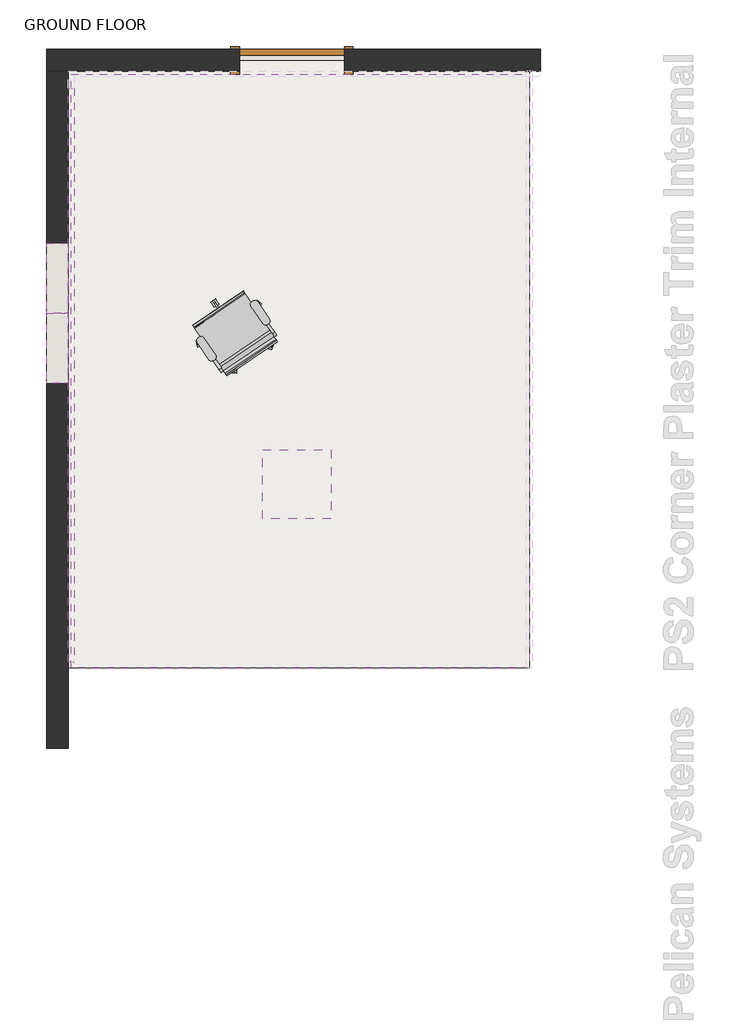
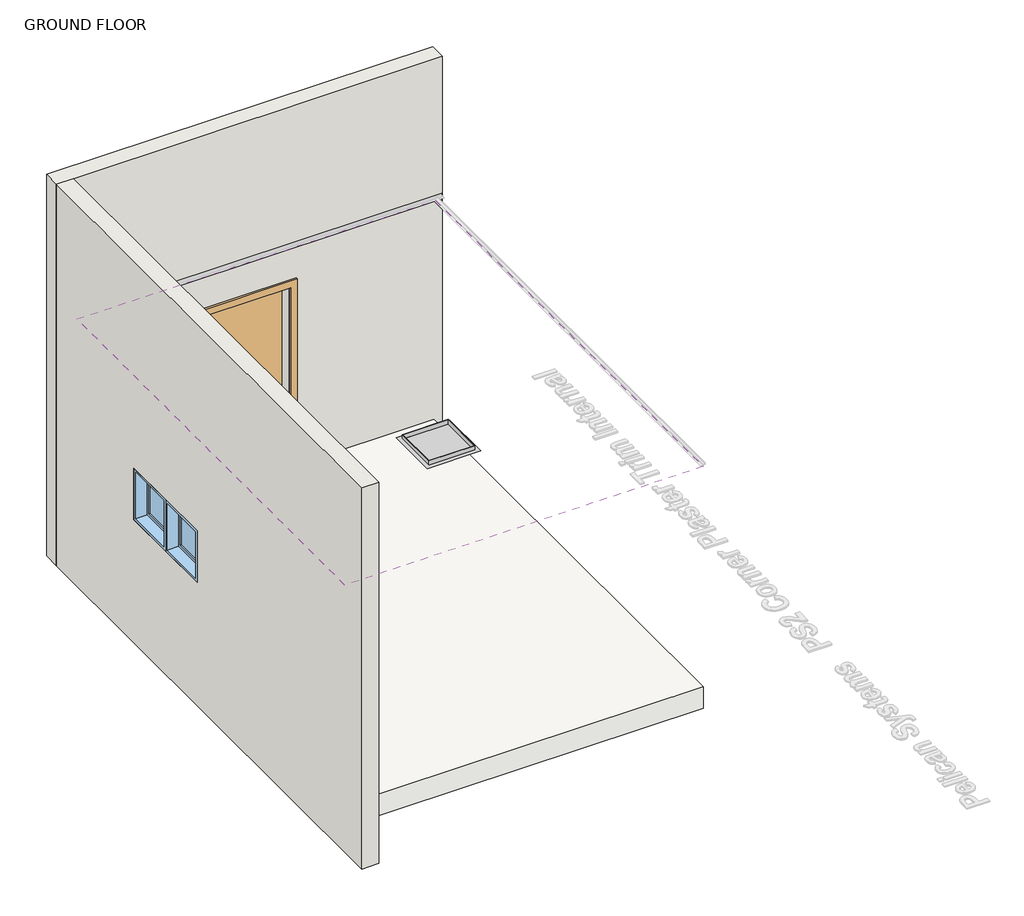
# One storey, part 1 of 3: 2 proxies, 2 walls, 2 windows, 1 covering, 1 door, 1 furniture element, 1 slab.
"""IFC4 building model written with IfcOpenShell, lengths in millimetres."""

import ifcopenshell
import ifcopenshell.guid

model = None  # the IFC model being written
_history = None  # IfcOwnerHistory: only IFC2X3 demands one
_inside = {}  # id of a spatial element -> (the spatial element, [elements in it])
_under = {}  # id of a project, library or spatial element -> (it, [spatial elements below it])
_declared = {}  # id of a project -> (the project, [libraries it declares])
_typed = {}  # id of a type object -> (the type object, [elements of that type])
_made_of = {}  # id of a material, layer set ... -> (it, [elements and type objects made of it])


def new_model(schema):
    """Start an empty IFC model of exactly this schema.

    Asked for "IFC4X3", IfcOpenShell would pick the latest addendum, in which some entities
    have other attributes; the version numbers below select the first issue.
    IFC2X3 requires an IfcOwnerHistory on every rooted entity: one is made here for all.
    """
    global model, _history
    if schema == "IFC4X3":
        model = ifcopenshell.file(schema_version=(4, 3, 0, 0))
    else:
        model = ifcopenshell.file(schema=schema)
    _inside.clear()
    _under.clear()
    _declared.clear()
    _typed.clear()
    _made_of.clear()
    _history = None
    if model.schema == "IFC2X3":
        org = make("IfcOrganization", Name="unknown")
        user = make(
            "IfcPersonAndOrganization",
            ThePerson=make("IfcPerson", FamilyName="unknown"),
            TheOrganization=org,
        )
        app = make(
            "IfcApplication",
            ApplicationDeveloper=org,
            Version="unknown",
            ApplicationFullName="unknown",
            ApplicationIdentifier="unknown",
        )
        _history = make(
            "IfcOwnerHistory",
            OwningUser=user,
            OwningApplication=app,
            ChangeAction="ADDED",
            CreationDate=0,
        )
    return model


def make(cls, **values):
    """One entity of the class cls with the attributes given. An attribute that is None is left unset."""
    return model.create_entity(
        cls, **{name: value for name, value in values.items() if value is not None}
    )


def rooted(cls, **values):
    """An entity with a GlobalId (a new one), such as an element, a storey or a relation."""
    return make(cls, GlobalId=ifcopenshell.guid.new(), OwnerHistory=_history, **values)


def si_unit(unit_type, name, prefix=None):
    """IfcSIUnit, for example si_unit("LENGTHUNIT", "METRE", prefix="MILLI")."""
    return make("IfcSIUnit", UnitType=unit_type, Prefix=prefix, Name=name)


def assignment(units):
    """IfcUnitAssignment: the units of a project."""
    return None if units is None else make("IfcUnitAssignment", Units=units)


def point(xyz):
    """IfcCartesianPoint."""
    return None if xyz is None else make("IfcCartesianPoint", Coordinates=xyz)


def direction(xyz):
    """IfcDirection."""
    return None if xyz is None else make("IfcDirection", DirectionRatios=xyz)


def frame(location, z_axis=None, x_axis=None):
    """IfcAxis2Placement3D, a coordinate frame: its origin and axes. An axis left out is left unset."""
    return make(
        "IfcAxis2Placement3D",
        Location=point(location),
        Axis=direction(z_axis),
        RefDirection=direction(x_axis),
    )


def frame_2d(location, x_axis=None):
    """IfcAxis2Placement2D, a coordinate frame in the plane: its origin and x axis."""
    return make(
        "IfcAxis2Placement2D", Location=point(location), RefDirection=direction(x_axis)
    )


def origin():
    """The frame at (0, 0, 0) with its axes left unset."""
    return frame((0.0, 0.0, 0.0))


def origin_with_axes():
    """The frame at (0, 0, 0) with the z axis (0, 0, 1) and the x axis (1, 0, 0) written out."""
    return frame((0.0, 0.0, 0.0), z_axis=(0.0, 0.0, 1.0), x_axis=(1.0, 0.0, 0.0))


def place(relative_to, where):
    """IfcLocalPlacement: puts the frame where relative to a parent placement (None: the world)."""
    return make(
        "IfcLocalPlacement", PlacementRelTo=relative_to, RelativePlacement=where
    )


def context(
    kind, dimensions, precision=None, world=None, true_north=None, identifier=None
):
    """IfcGeometricRepresentationContext, for example the 3D "Model" context."""
    return make(
        "IfcGeometricRepresentationContext",
        ContextIdentifier=identifier,
        ContextType=kind,
        CoordinateSpaceDimension=dimensions,
        Precision=precision,
        WorldCoordinateSystem=world,
        TrueNorth=true_north,
    )


def project(units=None, contexts=None):
    """IfcProject with its units and contexts."""
    return rooted(
        "IfcProject",
        Name="project",
        RepresentationContexts=contexts,
        UnitsInContext=assignment(units),
    )


def spatial(cls, under=None, at=None, **own):
    """A site, building, storey or space (cls), placed at a placement, below another one or the project."""
    s = rooted(cls, ObjectPlacement=at, **own)
    if under is not None:
        _under.setdefault(under.id(), (under, []))[1].append(s)
    return s


def polyline(points):
    """IfcPolyline through the points."""
    return make("IfcPolyline", Points=[point(p) for p in points])


def circle_curve(where, radius):
    """IfcCircle in the frame where."""
    return make("IfcCircle", Position=where, Radius=radius)


def trimmed(basis, trim1, trim2, sense, master):
    """IfcTrimmedCurve: the piece of a basis curve between two trims."""
    return make(
        "IfcTrimmedCurve",
        BasisCurve=basis,
        Trim1=trim1,
        Trim2=trim2,
        SenseAgreement=sense,
        MasterRepresentation=master,
    )


def segment(curve, same_sense, transition):
    """IfcCompositeCurveSegment."""
    return make(
        "IfcCompositeCurveSegment",
        Transition=transition,
        SameSense=same_sense,
        ParentCurve=curve,
    )


def composite_curve(segments, self_intersect=None):
    """IfcCompositeCurve: segments joined end to end."""
    return make("IfcCompositeCurve", Segments=segments, SelfIntersect=self_intersect)


def outline(outer, holes=None, kind="AREA"):
    """IfcArbitraryClosedProfileDef: a profile drawn as a closed curve; with holes, ...WithVoids."""
    if holes is None:
        return make("IfcArbitraryClosedProfileDef", ProfileType=kind, OuterCurve=outer)
    return make(
        "IfcArbitraryProfileDefWithVoids",
        ProfileType=kind,
        OuterCurve=outer,
        InnerCurves=holes,
    )


def extrude(swept, where, along, depth):
    """IfcExtrudedAreaSolid: the profile swept, set in the frame where, extruded along a direction by depth."""
    return make(
        "IfcExtrudedAreaSolid",
        SweptArea=swept,
        Position=where,
        ExtrudedDirection=direction(along),
        Depth=depth,
    )


def faces_of(points, faces, orient=None, outer=None):
    """IfcFace entities. A face is a list of loops; a loop is a list of indices into points, from 0.

    orient and outer hold one flag for each loop. By default every Orientation is true, the
    first loop of a face is its IfcFaceOuterBound and the others are IfcFaceBound.
    """
    made = []
    for i, loops in enumerate(faces):
        bounds = []
        for j, loop in enumerate(loops):
            is_outer = j == 0 if outer is None else outer[i][j]
            bounds.append(
                make(
                    "IfcFaceOuterBound" if is_outer else "IfcFaceBound",
                    Bound=make("IfcPolyLoop", Polygon=[points[k] for k in loop]),
                    Orientation=True if orient is None else orient[i][j],
                )
            )
        made.append(make("IfcFace", Bounds=bounds))
    return made


def faceted_brep(points, faces, orient=None, outer=None, voids=None):
    """IfcFacetedBrep: a solid bounded by flat faces; with voids (closed shells), ...WithVoids."""
    shared = [point(p) for p in points]
    hull = make("IfcClosedShell", CfsFaces=faces_of(shared, faces, orient, outer))
    if voids is None:
        return make("IfcFacetedBrep", Outer=hull)
    return make(
        "IfcFacetedBrepWithVoids",
        Outer=hull,
        Voids=[
            make(cls, CfsFaces=faces_of(shared, fs, o, b)) for cls, fs, o, b in voids
        ],
    )


def shape(context_of_items, identifier, shape_type, items):
    """IfcShapeRepresentation: the items that make up one representation, for example the "Body"."""
    return make(
        "IfcShapeRepresentation",
        ContextOfItems=context_of_items,
        RepresentationIdentifier=identifier,
        RepresentationType=shape_type,
        Items=items,
    )


def source(mapping_origin, context_of_items, identifier, shape_type, items):
    """IfcRepresentationMap: a shape defined once, which mapped items show again and again."""
    return make(
        "IfcRepresentationMap",
        MappingOrigin=mapping_origin,
        MappedRepresentation=shape(context_of_items, identifier, shape_type, items),
    )


def transform(
    local_origin,
    x_axis=None,
    y_axis=None,
    z_axis=None,
    scale=None,
    scale2=None,
    scale3=None,
    uniform=True,
):
    """IfcCartesianTransformationOperator3D, or its non-uniform kind. x_axis, y_axis, z_axis: its Axis1, 2, 3."""
    if uniform:
        return make(
            "IfcCartesianTransformationOperator3D",
            Axis1=direction(x_axis),
            Axis2=direction(y_axis),
            LocalOrigin=point(local_origin),
            Scale=scale,
            Axis3=direction(z_axis),
        )
    return make(
        "IfcCartesianTransformationOperator3DnonUniform",
        Axis1=direction(x_axis),
        Axis2=direction(y_axis),
        LocalOrigin=point(local_origin),
        Scale=scale,
        Axis3=direction(z_axis),
        Scale2=scale2,
        Scale3=scale3,
    )


def mapped(mapping_source, mapping_target):
    """IfcMappedItem: shows the shape of a source again, moved by a transform."""
    return make(
        "IfcMappedItem", MappingSource=mapping_source, MappingTarget=mapping_target
    )


def made_of(thing, what):
    """Note that an element or type object is made of a material, layer set ...; save() writes the relation."""
    if what is not None:
        _made_of.setdefault(what.id(), (what, []))[1].append(thing)
    return thing


def element(
    cls,
    number,
    at=None,
    inside=None,
    cuts=None,
    type_object=None,
    material=None,
    context=None,
    identifier="Body",
    shape_type=None,
    held_by="IfcProductDefinitionShape",
    body=None,
    shapes=None,
    **own,
):
    """One element of the class cls, such as IfcWall. Its Tag is "e" and its number.

    at: its placement. inside: the storey or other place that contains it. cuts: it is an
    opening in that element (IfcRelVoidsElement). A single representation is given by context,
    identifier, shape_type and body (its items); several are given by shapes. held_by: the class
    of the entity that holds the representations. save() writes the other relations.
    """
    e = rooted(cls, Tag="e%d" % number, ObjectPlacement=at, **own)
    if body is not None:
        shapes = [shape(context, identifier, shape_type, body)]
    if shapes is not None:
        e.Representation = make(held_by, Representations=shapes)
    if inside is not None:
        _inside.setdefault(inside.id(), (inside, []))[1].append(e)
    if cuts is not None:
        rooted(
            "IfcRelVoidsElement", RelatingBuildingElement=cuts, RelatedOpeningElement=e
        )
    if type_object is not None:
        _typed.setdefault(type_object.id(), (type_object, []))[1].append(e)
    return made_of(e, material)


def aggregate(whole, parts):
    """IfcRelAggregates: a whole, such as a stair, and the parts it consists of."""
    return rooted("IfcRelAggregates", RelatingObject=whole, RelatedObjects=parts)


def save(model, path):
    """Write the relations noted so far, then the file.

    IfcRelAggregates (storeys below a building ...), IfcRelContainedInSpatialStructure (elements
    in a storey), IfcRelDefinesByType, IfcRelAssociatesMaterial and IfcRelDeclares: one each for
    every whole, place, type object, material and project.
    """
    for whole, parts in _under.values():
        aggregate(whole, parts)
    for where, things in _inside.values():
        rooted(
            "IfcRelContainedInSpatialStructure",
            RelatedElements=things,
            RelatingStructure=where,
        )
    for kind, things in _typed.values():
        rooted("IfcRelDefinesByType", RelatedObjects=things, RelatingType=kind)
    for what, things in _made_of.values():
        rooted("IfcRelAssociatesMaterial", RelatedObjects=things, RelatingMaterial=what)
    for by, libraries in _declared.values():
        rooted("IfcRelDeclares", RelatingContext=by, RelatedDefinitions=libraries)
    model.write(path)


def plane_surface(at):
    """IfcPlane: the flat surface through the origin of the frame at, square to its z axis."""
    return make("IfcPlane", Position=at)


def cylinder_surface(at, radius):
    """IfcCylindricalSurface: all points at the distance radius from the z axis of the frame at."""
    return make("IfcCylindricalSurface", Position=at, Radius=radius)


def revolved_surface(curve, axis_point, axis_direction):
    """IfcSurfaceOfRevolution: the curve turned about the line through axis_point along axis_direction."""
    return make(
        "IfcSurfaceOfRevolution",
        SweptCurve=make("IfcArbitraryOpenProfileDef", ProfileType="CURVE", Curve=curve),
        AxisPosition=make("IfcAxis1Placement", Location=point(axis_point), Axis=direction(axis_direction)),
    )


def advanced_brep(points, edges, surfaces, faces):
    """IfcAdvancedBrep: a solid bounded by faces that lie on surfaces and meet in shared edges.

    An edge is (start, end): straight between two places in points (the first is 0);
    or (start, end, curve); or (start, end, curve, False) where it runs against its curve.
    A face is (place in surfaces, loops), or (place, loops, False) where it looks against
    its surface's normal. A loop lists edges by number (the first is 1), with a minus sign
    where the edge is run from its end to its start. The first loop is the outer one.
    """
    corners = [point(p) for p in points]
    vertices = [make("IfcVertexPoint", VertexGeometry=c) for c in corners]
    made = []
    for start, end, *more in edges:
        made.append(
            make(
                "IfcEdgeCurve",
                EdgeStart=vertices[start],
                EdgeEnd=vertices[end],
                EdgeGeometry=more[0] if more else make("IfcPolyline", Points=[corners[start], corners[end]]),
                SameSense=more[1] if len(more) > 1 else True,
            )
        )
    hull = []
    for where, loops, *sense in faces:
        bounds = []
        for j, loop in enumerate(loops):
            ring = [make("IfcOrientedEdge", EdgeElement=made[abs(k) - 1], Orientation=k > 0) for k in loop]
            bounds.append(
                make(
                    "IfcFaceOuterBound" if j == 0 else "IfcFaceBound",
                    Bound=make("IfcEdgeLoop", EdgeList=ring),
                    Orientation=True,
                )
            )
        hull.append(make("IfcAdvancedFace", Bounds=bounds, FaceSurface=surfaces[where], SameSense=sense[0] if sense else True))
    return make("IfcAdvancedBrep", Outer=make("IfcClosedShell", CfsFaces=hull))


def m_single_flush_0915_x_2134mm_f5238887(model_context):
    return source(origin(), model_context, "Body", "SweptSolid", [
        extrude(outline(polyline([(2210.0, -533.5), (0.0, -533.5), (0.0, -457.5), (2134.0, -457.5), (2134.0, 457.5), (0.0, 457.5), (0.0, 533.5), (2210.0, 533.5), (2210.0, -533.5)])), frame((0.0, 95.0, 0.0), z_axis=(0.0, 1.0, 0.0), x_axis=(0.0, 0.0, 1.0)), (0.0, 0.0, 1.0), 25.0),
        extrude(outline(polyline([(2210.0, 533.5), (2210.0, -533.5), (0.0, -533.5), (0.0, -457.5), (2134.0, -457.5), (2134.0, 457.5), (0.0, 457.5), (0.0, 533.5), (2210.0, 533.5)])), frame((0.0, -120.0, 0.0), z_axis=(0.0, 1.0, 0.0), x_axis=(0.0, 0.0, 1.0)), (0.0, 0.0, 1.0), 25.0),
        extrude(outline(polyline([(457.5, 44.0), (-457.5, 44.0), (-457.5, 95.0), (457.5, 95.0), (457.5, 44.0)])), origin_with_axes(), (0.0, 0.0, 1.0), 2134.0),
    ])


def chair_task_arms_chair_task_arms_3b363349(model_context):
    return source(origin(), model_context, "Body", "SolidModel", [
        extrude(outline(composite_curve([segment(polyline([(433.0908197, -74.2028048), (414.0408197, -74.2028048)]), True, "CONTINUOUS"), segment(trimmed(circle_curve(frame_2d((414.0408197, -48.8028048)), 25.4), [point((414.0408197, -74.2028048))], [point((388.6408197, -48.8028048))], False, "CARTESIAN"), True, "CONTINUOUS"), segment(polyline([(388.6408197, -48.8028048), (388.6408197, 141.6319091)]), True, "CONTINUOUS"), segment(trimmed(circle_curve(frame_2d((414.0408197, 141.6319091)), 25.4), [point((388.6408197, 141.6319091))], [point((414.0408197, 167.0319091))], False, "CARTESIAN"), True, "CONTINUOUS"), segment(polyline([(414.0408197, 167.0319091), (433.0908197, 167.0319091)]), True, "CONTINUOUS"), segment(trimmed(circle_curve(frame_2d((433.0908197, 141.6319091)), 25.4), [point((433.0908197, 167.0319091))], [point((458.4908197, 141.6319091))], False, "CARTESIAN"), True, "CONTINUOUS"), segment(polyline([(458.4908197, 141.6319091), (458.4908197, -48.8028048)]), True, "CONTINUOUS"), segment(trimmed(circle_curve(frame_2d((433.0908197, -48.8028048)), 25.4), [point((458.4908197, -48.8028048))], [point((433.0908197, -74.2028048))], False, "CARTESIAN"), True, "CONTINUOUS")], self_intersect=False)), frame((0.0, 0.0, 596.9), z_axis=(0.0, 0.0, 1.0), x_axis=(1.0, 0.0, 0.0)), (0.0, 0.0, 1.0), 25.4),
        extrude(outline(composite_curve([segment(polyline([(-132.0591803, -73.1575984), (-151.1091803, -73.1575984)]), True, "CONTINUOUS"), segment(trimmed(circle_curve(frame_2d((-151.1091803, -47.7575984)), 25.4), [point((-151.1091803, -73.1575984))], [point((-176.5091803, -47.7575984))], False, "CARTESIAN"), True, "CONTINUOUS"), segment(polyline([(-176.5091803, -47.7575984), (-176.5091803, 141.6319091)]), True, "CONTINUOUS"), segment(trimmed(circle_curve(frame_2d((-151.1091803, 141.6319091)), 25.4), [point((-176.5091803, 141.6319091))], [point((-151.1091803, 167.0319091))], False, "CARTESIAN"), True, "CONTINUOUS"), segment(polyline([(-151.1091803, 167.0319091), (-132.0591803, 167.0319091)]), True, "CONTINUOUS"), segment(trimmed(circle_curve(frame_2d((-132.0591803, 141.6319091)), 25.4), [point((-132.0591803, 167.0319091))], [point((-106.6591803, 141.6319091))], False, "CARTESIAN"), True, "CONTINUOUS"), segment(polyline([(-106.6591803, 141.6319091), (-106.6591803, -47.7575984)]), True, "CONTINUOUS"), segment(trimmed(circle_curve(frame_2d((-132.0591803, -47.7575984)), 25.4), [point((-106.6591803, -47.7575984))], [point((-132.0591803, -73.1575984))], False, "CARTESIAN"), True, "CONTINUOUS")], self_intersect=False)), frame((0.0, 0.0, 596.9), z_axis=(0.0, 0.0, 1.0), x_axis=(1.0, 0.0, 0.0)), (0.0, 0.0, 1.0), 25.4),
        advanced_brep(
        [(-151.1091803, 167.0319091, 412.75), (-151.1091803, 167.0319091, 425.45), (-125.7091803, 167.0319091, 425.45), (-125.7091803, 167.0319091, 412.75), (-151.1091803, -126.2388651, 412.75), (-151.1091803, -126.2388651, 425.45), (-125.7091803, -126.2388651, 425.45), (-125.7091803, -126.2388651, 412.75), (-151.1091803, -170.3844094, 464.7064065), (-151.1091803, -182.9974221, 463.2225227), (-125.7091803, -170.3844094, 464.7064065), (-125.7091803, -182.9974221, 463.2225227), (-151.1091803, -196.7936301, 580.4902904), (-151.1091803, -184.1806174, 581.9741742), (-125.7091803, -184.1806174, 581.9741742), (-125.7091803, -196.7936301, 580.4902904), (-151.1091803, -165.2610984, 603.25), (-151.1091803, -165.2610984, 615.95), (-125.7091803, -165.2610984, 603.25), (-125.7091803, -165.2610984, 615.95), (-151.1091803, 18.9459016, 615.95), (-125.7091803, 18.9459016, 615.95), (-125.7091803, 18.9459016, 603.25), (-151.1091803, 18.9459016, 603.25)],
        [
            (0, 1),
            (1, 2),
            (2, 3),
            (3, 0),
            (0, 4),
            (4, 5),
            (5, 1),
            (5, 6),
            (6, 2),
            (6, 7),
            (7, 3),
            (7, 4),
            (8, 5, circle_curve(frame((-151.1091803, -126.2388651, 469.9), z_axis=(1.0, 0.0, 0.0), x_axis=(0.0, 0.0, -1.0)), 44.45)),
            (4, 9, circle_curve(frame((-151.1091803, -126.2388651, 469.9), z_axis=(-1.0, 0.0, 0.0), x_axis=(0.0, 0.0, -1.0)), 57.15)),
            (9, 8),
            (10, 6, circle_curve(frame((-125.7091803, -126.2388651, 469.9), z_axis=(1.0, 0.0, 0.0), x_axis=(0.0, 0.0, -1.0)), 44.45)),
            (8, 10),
            (11, 7, circle_curve(frame((-125.7091803, -126.2388651, 469.9), z_axis=(1.0, 0.0, 0.0), x_axis=(0.0, 0.0, -1.0)), 57.15)),
            (10, 11),
            (11, 9),
            (9, 12),
            (12, 13),
            (13, 8),
            (13, 14),
            (14, 10),
            (14, 15),
            (15, 11),
            (15, 12),
            (16, 13, circle_curve(frame((-151.1091803, -165.2610984, 584.2), z_axis=(1.0, 0.0, 0.0), x_axis=(0.0, -0.9931506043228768, -0.11684124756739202)), 19.05)),
            (12, 17, circle_curve(frame((-151.1091803, -165.2610984, 584.2), z_axis=(-1.0, 0.0, 0.0), x_axis=(0.0, -0.9931506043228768, -0.11684124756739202)), 31.75)),
            (17, 16),
            (18, 14, circle_curve(frame((-125.7091803, -165.2610984, 584.2), z_axis=(1.0, 0.0, 0.0), x_axis=(0.0, -0.9931506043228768, -0.11684124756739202)), 19.05)),
            (16, 18),
            (19, 15, circle_curve(frame((-125.7091803, -165.2610984, 584.2), z_axis=(1.0, 0.0, 0.0), x_axis=(0.0, -0.9931506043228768, -0.11684124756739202)), 31.75)),
            (18, 19),
            (19, 17),
            (20, 21),
            (21, 22),
            (22, 23),
            (23, 20),
            (17, 20),
            (23, 16),
            (22, 18),
            (21, 19),
        ],
        [
            plane_surface(frame((-152.608212, 167.0319091, 419.1), z_axis=(0.0, 1.0, 0.0), x_axis=(0.0, 0.0, -1.0))),
            plane_surface(frame((-151.1091803, 167.0319091, 412.75), z_axis=(-1.0, 0.0, 0.0), x_axis=(0.0, -1.0, 0.0))),
            plane_surface(frame((-151.1091803, 167.0319091, 425.45), z_axis=(0.0, 0.0, 1.0), x_axis=(0.0, -1.0, 0.0))),
            plane_surface(frame((-125.7091803, 167.0319091, 425.45), z_axis=(1.0, 0.0, 0.0), x_axis=(0.0, -1.0, 0.0))),
            plane_surface(frame((-125.7091803, 167.0319091, 412.75), z_axis=(0.0, 0.0, -1.0), x_axis=(0.0, -1.0, 0.0))),
            plane_surface(frame((-151.1091803, -126.2388651, 469.9), z_axis=(-1.0, 0.0, 0.0), x_axis=(0.0, 0.0, -1.0))),
            revolved_surface(polyline([(-151.1091803, -126.2388651, 425.45), (-125.7091803, -126.2388651, 425.45)]), (-138.4091803, -126.2388651, 469.9), (-1.0, 0.0, 0.0)),
            plane_surface(frame((-125.7091803, -126.2388651, 469.9), z_axis=(1.0, 0.0, 0.0), x_axis=(0.0, 0.0, -1.0))),
            cylinder_surface(frame((-138.4091803, -126.2388651, 469.9), z_axis=(-1.0, 0.0, 0.0), x_axis=(0.0, 0.0, -1.0)), 57.15),
            plane_surface(frame((-151.1091803, -182.9974221, 463.2225227), z_axis=(-1.0, 0.0, 0.0), x_axis=(0.0, -0.1168412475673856, 0.9931506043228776))),
            plane_surface(frame((-151.1091803, -170.3844094, 464.7064065), z_axis=(0.0, 0.9931506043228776, 0.1168412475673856), x_axis=(0.0, -0.1168412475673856, 0.9931506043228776))),
            plane_surface(frame((-125.7091803, -170.3844094, 464.7064065), z_axis=(1.0, 0.0, 0.0), x_axis=(0.0, -0.1168412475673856, 0.9931506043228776))),
            plane_surface(frame((-125.7091803, -182.9974221, 463.2225227), z_axis=(0.0, -0.9931506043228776, -0.1168412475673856), x_axis=(0.0, -0.1168412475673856, 0.9931506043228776))),
            plane_surface(frame((-151.1091803, -165.2610984, 584.2), z_axis=(-1.0, 0.0, 0.0), x_axis=(0.0, -0.9931506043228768, -0.11684124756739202))),
            revolved_surface(polyline([(-151.1091803, -184.1806174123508, 581.9741742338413), (-125.7091803, -184.1806174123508, 581.9741742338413)]), (-138.4091803, -165.2610984, 584.2), (-1.0, 0.0, 0.0)),
            plane_surface(frame((-125.7091803, -165.2610984, 584.2), z_axis=(1.0, 0.0, 0.0), x_axis=(0.0, -0.9931506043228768, -0.11684124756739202))),
            cylinder_surface(frame((-138.4091803, -165.2610984, 584.2), z_axis=(-1.0, 0.0, 0.0), x_axis=(0.0, -0.9931506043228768, -0.11684124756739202)), 31.75),
            plane_surface(frame((-152.608212, 18.9459016, 609.6), z_axis=(0.0, 1.0, 0.0), x_axis=(0.0, 0.0, 1.0))),
            plane_surface(frame((-151.1091803, -165.2610984, 615.95), z_axis=(-1.0, 0.0, 0.0), x_axis=(0.0, 1.0, 0.0))),
            plane_surface(frame((-151.1091803, -165.2610984, 603.25), z_axis=(0.0, 0.0, -1.0), x_axis=(0.0, 1.0, 0.0))),
            plane_surface(frame((-125.7091803, -165.2610984, 603.25), z_axis=(1.0, 0.0, 0.0), x_axis=(0.0, 1.0, 0.0))),
            plane_surface(frame((-125.7091803, -165.2610984, 615.95), z_axis=(0.0, 0.0, 1.0), x_axis=(0.0, 1.0, 0.0))),
        ],
        [
            (0, [[1, 2, 3, 4]]),
            (1, [[-1, 5, 6, 7]]),
            (2, [[-2, -7, 8, 9]]),
            (3, [[-3, -9, 10, 11]]),
            (4, [[-4, -11, 12, -5]]),
            (5, [[13, -6, 14, 15]]),
            (6, [[16, -8, -13, 17]]),
            (7, [[18, -10, -16, 19]]),
            (8, [[-14, -12, -18, 20]]),
            (9, [[-15, 21, 22, 23]]),
            (10, [[-17, -23, 24, 25]]),
            (11, [[-19, -25, 26, 27]]),
            (12, [[-20, -27, 28, -21]]),
            (13, [[29, -22, 30, 31]]),
            (14, [[32, -24, -29, 33]]),
            (15, [[34, -26, -32, 35]]),
            (16, [[-30, -28, -34, 36]]),
            (17, [[37, 38, 39, 40]]),
            (18, [[-31, 41, -40, 42]]),
            (19, [[-33, -42, -39, 43]]),
            (20, [[-35, -43, -38, 44]]),
            (21, [[-36, -44, -37, -41]]),
        ],
    ),
        advanced_brep(
        [(433.0908197, 167.0319091, 425.45), (433.0908197, 167.0319091, 412.75), (407.6908197, 167.0319091, 412.75), (407.6908197, 167.0319091, 425.45), (433.0908197, -128.329278, 425.45), (433.0908197, -128.329278, 412.75), (407.6908197, -128.329278, 412.75), (407.6908197, -128.329278, 425.45), (433.0908197, -185.0878351, 463.2225227), (433.0908197, -172.4748224, 464.7064065), (407.6908197, -185.0878351, 463.2225227), (407.6908197, -172.4748224, 464.7064065), (433.0908197, -186.2710303, 581.9741742), (433.0908197, -198.884043, 580.4902904), (407.6908197, -198.884043, 580.4902904), (407.6908197, -186.2710303, 581.9741742), (433.0908197, -167.3515113, 615.95), (433.0908197, -167.3515113, 603.25), (407.6908197, -167.3515113, 615.95), (407.6908197, -167.3515113, 603.25), (433.0908197, 18.9459016, 603.25), (407.6908197, 18.9459016, 603.25), (407.6908197, 18.9459016, 615.95), (433.0908197, 18.9459016, 615.95)],
        [
            (0, 1),
            (1, 2),
            (2, 3),
            (3, 0),
            (0, 4),
            (4, 5),
            (5, 1),
            (5, 6),
            (6, 2),
            (6, 7),
            (7, 3),
            (7, 4),
            (8, 5, circle_curve(frame((433.0908197, -128.329278, 469.9), z_axis=(1.0, 0.0, 0.0), x_axis=(0.0, 0.0, -1.0)), 57.15)),
            (4, 9, circle_curve(frame((433.0908197, -128.329278, 469.9), z_axis=(-1.0, 0.0, 0.0), x_axis=(0.0, 0.0, -1.0)), 44.45)),
            (9, 8),
            (10, 6, circle_curve(frame((407.6908197, -128.329278, 469.9), z_axis=(1.0, 0.0, 0.0), x_axis=(0.0, 0.0, -1.0)), 57.15)),
            (8, 10),
            (11, 7, circle_curve(frame((407.6908197, -128.329278, 469.9), z_axis=(1.0, 0.0, 0.0), x_axis=(0.0, 0.0, -1.0)), 44.45)),
            (10, 11),
            (11, 9),
            (9, 12),
            (12, 13),
            (13, 8),
            (13, 14),
            (14, 10),
            (14, 15),
            (15, 11),
            (15, 12),
            (16, 13, circle_curve(frame((433.0908197, -167.3515113, 584.2), z_axis=(1.0, 0.0, 0.0), x_axis=(0.0, -0.9931506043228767, -0.1168412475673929)), 31.75)),
            (12, 17, circle_curve(frame((433.0908197, -167.3515113, 584.2), z_axis=(-1.0, 0.0, 0.0), x_axis=(0.0, -0.9931506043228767, -0.1168412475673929)), 19.05)),
            (17, 16),
            (18, 14, circle_curve(frame((407.6908197, -167.3515113, 584.2), z_axis=(1.0, 0.0, 0.0), x_axis=(0.0, -0.9931506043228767, -0.1168412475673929)), 31.75)),
            (16, 18),
            (19, 15, circle_curve(frame((407.6908197, -167.3515113, 584.2), z_axis=(1.0, 0.0, 0.0), x_axis=(0.0, -0.9931506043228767, -0.1168412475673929)), 19.05)),
            (18, 19),
            (19, 17),
            (20, 21),
            (21, 22),
            (22, 23),
            (23, 20),
            (17, 20),
            (23, 16),
            (22, 18),
            (21, 19),
        ],
        [
            plane_surface(frame((406.191788, 167.0319091, 419.1), z_axis=(0.0, 1.0, 0.0), x_axis=(0.0, 0.0, -1.0))),
            plane_surface(frame((433.0908197, 167.0319091, 425.45), z_axis=(1.0, 0.0, 0.0), x_axis=(0.0, -1.0, 0.0))),
            plane_surface(frame((433.0908197, 167.0319091, 412.75), z_axis=(0.0, 0.0, -1.0), x_axis=(0.0, -1.0, 0.0))),
            plane_surface(frame((407.6908197, 167.0319091, 412.75), z_axis=(-1.0, 0.0, 0.0), x_axis=(0.0, -1.0, 0.0))),
            plane_surface(frame((407.6908197, 167.0319091, 425.45), z_axis=(0.0, 0.0, 1.0), x_axis=(0.0, -1.0, 0.0))),
            plane_surface(frame((433.0908197, -128.329278, 469.9), z_axis=(1.0, 0.0, 0.0), x_axis=(0.0, 0.0, -1.0))),
            cylinder_surface(frame((420.3908197, -128.329278, 469.9), z_axis=(-1.0, 0.0, 0.0), x_axis=(0.0, 0.0, -1.0)), 57.15),
            plane_surface(frame((407.6908197, -128.329278, 469.9), z_axis=(-1.0, 0.0, 0.0), x_axis=(0.0, 0.0, -1.0))),
            revolved_surface(polyline([(407.6908197, -128.329278, 425.45), (433.0908197, -128.329278, 425.45)]), (420.3908197, -128.329278, 469.9), (-1.0, 0.0, 0.0)),
            plane_surface(frame((433.0908197, -172.4748224, 464.7064065), z_axis=(1.0, 0.0, 0.0), x_axis=(0.0, -0.11684124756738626, 0.9931506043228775))),
            plane_surface(frame((433.0908197, -185.0878351, 463.2225227), z_axis=(0.0, -0.9931506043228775, -0.11684124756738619), x_axis=(0.0, -0.11684124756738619, 0.9931506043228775))),
            plane_surface(frame((407.6908197, -185.0878351, 463.2225227), z_axis=(-1.0, 0.0, 0.0), x_axis=(0.0, -0.11684124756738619, 0.9931506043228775))),
            plane_surface(frame((407.6908197, -172.4748224, 464.7064065), z_axis=(0.0, 0.9931506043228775, 0.11684124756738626), x_axis=(0.0, -0.11684124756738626, 0.9931506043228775))),
            plane_surface(frame((433.0908197, -167.3515113, 584.2), z_axis=(1.0, 0.0, 0.0), x_axis=(0.0, -0.9931506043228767, -0.1168412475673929))),
            cylinder_surface(frame((420.3908197, -167.3515113, 584.2), z_axis=(-1.0, 0.0, 0.0), x_axis=(0.0, -0.9931506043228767, -0.1168412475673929)), 31.75),
            plane_surface(frame((407.6908197, -167.3515113, 584.2), z_axis=(-1.0, 0.0, 0.0), x_axis=(0.0, -0.9931506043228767, -0.1168412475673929))),
            revolved_surface(polyline([(407.6908197, -186.2710303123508, 581.9741742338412), (433.0908197, -186.2710303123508, 581.9741742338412)]), (420.3908197, -167.3515113, 584.2), (-1.0, 0.0, 0.0)),
            plane_surface(frame((406.191788, 18.9459016, 609.6), z_axis=(0.0, 1.0, 0.0), x_axis=(0.0, 0.0, 1.0))),
            plane_surface(frame((433.0908197, -167.3515113, 603.25), z_axis=(1.0, 0.0, 0.0), x_axis=(0.0, 1.0, 0.0))),
            plane_surface(frame((433.0908197, -167.3515113, 615.95), z_axis=(0.0, 0.0, 1.0), x_axis=(0.0, 1.0, 0.0))),
            plane_surface(frame((407.6908197, -167.3515113, 615.95), z_axis=(-1.0, 0.0, 0.0), x_axis=(0.0, 1.0, 0.0))),
            plane_surface(frame((407.6908197, -167.3515113, 603.25), z_axis=(0.0, 0.0, -1.0), x_axis=(0.0, 1.0, 0.0))),
        ],
        [
            (0, [[1, 2, 3, 4]]),
            (1, [[-1, 5, 6, 7]]),
            (2, [[-2, -7, 8, 9]]),
            (3, [[-3, -9, 10, 11]]),
            (4, [[-4, -11, 12, -5]]),
            (5, [[13, -6, 14, 15]]),
            (6, [[16, -8, -13, 17]]),
            (7, [[18, -10, -16, 19]]),
            (8, [[-14, -12, -18, 20]]),
            (9, [[-15, 21, 22, 23]]),
            (10, [[-17, -23, 24, 25]]),
            (11, [[-19, -25, 26, 27]]),
            (12, [[-20, -27, 28, -21]]),
            (13, [[29, -22, 30, 31]]),
            (14, [[32, -24, -29, 33]]),
            (15, [[34, -26, -32, 35]]),
            (16, [[-30, -28, -34, 36]]),
            (17, [[37, 38, 39, 40]]),
            (18, [[-31, 41, -40, 42]]),
            (19, [[-33, -42, -39, 43]]),
            (20, [[-35, -43, -38, 44]]),
            (21, [[-36, -44, -37, -41]]),
        ],
    ),
        extrude(outline(composite_curve([segment(trimmed(circle_curve(frame_2d((140.9908197, 18.9459016)), 25.4), [point((115.5908197, 18.9459016))], [point((166.3908197, 18.9459016))], False, "CARTESIAN"), True, "CONTINUOUS"), segment(trimmed(circle_curve(frame_2d((140.9908197, 18.9459016)), 25.4), [point((166.3908197, 18.9459016))], [point((115.5908197, 18.9459016))], False, "CARTESIAN"), True, "CONTINUOUS")], self_intersect=False)), frame((0.0, 0.0, 53.5835944), z_axis=(0.0, 0.0, 1.0), x_axis=(1.0, 0.0, 0.0)), (0.0, 0.0, 1.0), 330.5914056),
        extrude(outline(composite_curve([segment(trimmed(circle_curve(frame_2d((0.0, -28.2002727)), 28.2002727), [point((0.0, -56.4005455))], [point((0.0, 0.0))], False, "CARTESIAN"), True, "CONTINUOUS"), segment(trimmed(circle_curve(frame_2d((0.0, -28.2002727)), 28.2002727), [point((0.0, 0.0))], [point((0.0, -56.4005455))], False, "CARTESIAN"), True, "CONTINUOUS")], self_intersect=False)), frame((477.6203484, 101.6163254, 28.1835944), z_axis=(-0.3090169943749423, 0.9510565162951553, 0.0), x_axis=(0.0, 0.0, 1.0)), (0.0, 0.0, 1.0), 50.8),
        extrude(outline(composite_curve([segment(polyline([(-25.4, 0.0), (0.0, 0.0), (0.0, -50.8), (-24.303053, -50.8)]), True, "CONTINUOUS"), segment(trimmed(circle_curve(frame_2d((-24.303053, -25.4)), 25.4), [point((-24.303053, -50.8))], [point((-49.3171699, -29.8106637))], False, "CARTESIAN"), True, "CONTINUOUS"), segment(polyline([(-49.3171699, -29.8106637), (-101.6, 266.7), (-101.6, 292.1), (-25.4, 292.1), (-25.4, 0.0)]), True, "CONTINUOUS")], self_intersect=False)), frame((420.756686, 103.1705568, 28.1835944), z_axis=(-0.3090169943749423, 0.9510565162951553, 0.0), x_axis=(0.0, 0.0, -1.0)), (0.0, 0.0, 1.0), 12.7),
        extrude(outline(composite_curve([segment(trimmed(circle_curve(frame_2d((0.0, -28.2002727)), 28.2002727), [point((0.0, -56.4005455))], [point((0.0, 0.0))], False, "CARTESIAN"), True, "CONTINUOUS"), segment(trimmed(circle_curve(frame_2d((0.0, -28.2002727)), 28.2002727), [point((0.0, 0.0))], [point((0.0, -56.4005455))], False, "CARTESIAN"), True, "CONTINUOUS")], self_intersect=False)), frame((323.63931, -275.6612394, 28.1835944), z_axis=(0.8090169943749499, 0.5877852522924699, 0.0), x_axis=(0.0, 0.0, 1.0)), (0.0, 0.0, 1.0), 50.8),
        extrude(outline(composite_curve([segment(polyline([(-25.4, 0.0), (0.0, 0.0), (0.0, -50.8), (-24.303053, -50.8)]), True, "CONTINUOUS"), segment(trimmed(circle_curve(frame_2d((-24.303053, -25.3999999)), 25.4), [point((-24.303053, -50.8))], [point((-49.3171699, -29.8106636))], False, "CARTESIAN"), True, "CONTINUOUS"), segment(polyline([(-49.3171699, -29.8106636), (-101.6, 266.7), (-101.6, 292.1), (-25.4, 292.1), (-25.4, 0.0)]), True, "CONTINUOUS")], self_intersect=False)), frame((307.545634, -221.1003988, 28.1835944), z_axis=(0.8090169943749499, 0.5877852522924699, 0.0), x_axis=(0.0, 0.0, -1.0)), (0.0, 0.0, 1.0), 12.7),
        extrude(outline(composite_curve([segment(trimmed(circle_curve(frame_2d((0.0, -28.2002727)), 28.2002727), [point((0.0, -56.4005455))], [point((0.0, 0.0))], False, "CARTESIAN"), True, "CONTINUOUS"), segment(trimmed(circle_curve(frame_2d((0.0, -28.2002727)), 28.2002727), [point((0.0, 0.0))], [point((0.0, -56.4005455))], False, "CARTESIAN"), True, "CONTINUOUS")], self_intersect=False)), frame((-41.6576707, -275.6612394, 28.1835944), z_axis=(-0.8090169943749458, 0.5877852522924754, 0.0), x_axis=(0.0, 0.0, -1.0)), (0.0, 0.0, 1.0), 50.8),
        extrude(outline(composite_curve([segment(polyline([(25.4, 0.0), (25.4, 292.1), (101.6, 292.1), (101.6, 266.7), (49.3171699, -29.8106637)]), True, "CONTINUOUS"), segment(trimmed(circle_curve(frame_2d((24.303053, -25.3999999)), 25.4), [point((49.3171699, -29.8106637))], [point((24.303053, -50.8))], False, "CARTESIAN"), True, "CONTINUOUS"), segment(polyline([(24.303053, -50.8), (0.0, -50.8), (0.0, 0.0), (25.4, 0.0)]), True, "CONTINUOUS")], self_intersect=False)), frame((-25.5639946, -221.1003988, 28.1835944), z_axis=(-0.8090169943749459, 0.5877852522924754, 0.0), x_axis=(0.0, 0.0, 1.0)), (0.0, 0.0, 1.0), 12.7),
        extrude(outline(composite_curve([segment(trimmed(circle_curve(frame_2d((0.0, -28.2002727)), 28.2002727), [point((0.0, -56.4005454))], [point((0.0, 0.0))], False, "CARTESIAN"), True, "CONTINUOUS"), segment(trimmed(circle_curve(frame_2d((0.0, -28.2002727)), 28.2002727), [point((0.0, 0.0))], [point((0.0, -56.4005454))], False, "CARTESIAN"), True, "CONTINUOUS")], self_intersect=False)), frame((-195.638709, 101.6163254, 28.1835944), z_axis=(0.3090169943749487, 0.9510565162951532, 0.0), x_axis=(0.0, 0.0, -1.0)), (0.0, 0.0, 1.0), 50.8),
        extrude(outline(composite_curve([segment(polyline([(25.4, 0.0), (25.4, 292.1000001), (101.6, 292.1000001), (101.6, 266.7), (49.3171699, -29.8106636)]), True, "CONTINUOUS"), segment(trimmed(circle_curve(frame_2d((24.303053, -25.4)), 25.4), [point((49.3171699, -29.8106636))], [point((24.303053, -50.8))], False, "CARTESIAN"), True, "CONTINUOUS"), segment(polyline([(24.303053, -50.8), (0.0, -50.8), (0.0, 0.0), (25.4, 0.0)]), True, "CONTINUOUS")], self_intersect=False)), frame((-138.7750467, 103.1705568, 28.1835944), z_axis=(0.3090169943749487, 0.9510565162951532, 0.0), x_axis=(0.0, 0.0, 1.0)), (0.0, 0.0, 1.0), 12.7),
        extrude(outline(composite_curve([segment(trimmed(circle_curve(frame_2d((336.4459016, 28.1835944)), 28.2002727), [point((308.2456289, 28.1835944))], [point((364.6461744, 28.1835944))], False, "CARTESIAN"), True, "CONTINUOUS"), segment(trimmed(circle_curve(frame_2d((336.4459016, 28.1835944)), 28.2002727), [point((364.6461744, 28.1835944))], [point((308.2456289, 28.1835944))], False, "CARTESIAN"), True, "CONTINUOUS")], self_intersect=False)), frame((115.5908197, 0.0, 0.0), z_axis=(1.0, 0.0, 0.0), x_axis=(0.0, 1.0, 0.0)), (0.0, 0.0, 1.0), 50.8),
        extrude(outline(composite_curve([segment(polyline([(311.0459016, 53.5835944), (18.9459016, 53.5835944), (18.9459016, 129.7835944), (44.3459016, 129.7835944), (340.8565654, 77.5007643)]), True, "CONTINUOUS"), segment(trimmed(circle_curve(frame_2d((336.4459016, 52.4866474)), 25.4), [point((340.8565654, 77.5007643))], [point((361.8459016, 52.4866474))], False, "CARTESIAN"), True, "CONTINUOUS"), segment(polyline([(361.8459016, 52.4866474), (361.8459016, 28.1835944), (311.0459016, 28.1835944), (311.0459016, 53.5835944)]), True, "CONTINUOUS")], self_intersect=False)), frame((134.6408197, 0.0, 0.0), z_axis=(1.0, 0.0, 0.0), x_axis=(0.0, 1.0, 0.0)), (0.0, 0.0, 1.0), 12.7),
        extrude(outline(polyline([(69.7459016, 383.7835944), (69.7459016, 371.0835944), (18.9459016, 283.0954134), (-19.1540984, 283.0954134), (-19.1540984, 383.7835944), (69.7459016, 383.7835944)])), frame((90.1908197, 0.0, 0.0), z_axis=(1.0, 0.0, 0.0), x_axis=(0.0, 1.0, 0.0)), (0.0, 0.0, 1.0), 101.6),
        extrude(outline(composite_curve([segment(polyline([(-126.2050455, 457.2), (255.0102301, 457.2)]), True, "CONTINUOUS"), segment(trimmed(circle_curve(frame_2d((255.0102301, 444.5)), 12.7), [point((255.0102301, 457.2))], [point((263.9604301, 453.510212))], False, "CARTESIAN"), True, "CONTINUOUS"), segment(polyline([(263.9604301, 453.510212), (281.8961016, 435.6939999)]), True, "CONTINUOUS"), segment(trimmed(circle_curve(frame_2d((272.9459016, 426.6837879)), 12.7), [point((281.8961016, 435.6939999))], [point((285.6459016, 426.6837879))], False, "CARTESIAN"), True, "CONTINUOUS"), segment(polyline([(285.6459016, 426.6837879), (285.6459016, 391.6405184)]), True, "CONTINUOUS"), segment(trimmed(circle_curve(frame_2d((260.2459016, 391.6405184)), 25.4), [point((285.6459016, 391.6405184))], [point((278.2663256, 373.7401184))], False, "CARTESIAN"), True, "CONTINUOUS"), segment(polyline([(278.2663256, 373.7401184), (260.2470284, 355.6), (209.4470284, 355.6), (181.0744602, 383.7835944), (-107.1089978, 383.7835944)]), True, "CONTINUOUS"), segment(trimmed(circle_curve(frame_2d((-107.1089978, 459.9835944)), 76.2), [point((-107.1089978, 383.7835944))], [point((-182.7870738, 451.0802913))], False, "CARTESIAN"), True, "CONTINUOUS"), segment(polyline([(-182.7870738, 451.0802913), (-222.3540984, 787.4), (-244.0343545, 809.0802561)]), True, "CONTINUOUS"), segment(trimmed(circle_curve(frame_2d((-235.0540984, 818.0605122)), 12.7), [point((-244.0343545, 809.0802561))], [point((-247.7540984, 818.0605122))], False, "CARTESIAN"), True, "CONTINUOUS"), segment(polyline([(-247.7540984, 818.0605122), (-247.7540984, 876.3)]), True, "CONTINUOUS"), segment(trimmed(circle_curve(frame_2d((-235.0540984, 876.3)), 12.7), [point((-247.7540984, 876.3))], [point((-235.0540984, 889.0))], False, "CARTESIAN"), True, "CONTINUOUS"), segment(polyline([(-235.0540984, 889.0), (-222.1789239, 889.0)]), True, "CONTINUOUS"), segment(trimmed(circle_curve(frame_2d((-222.1789239, 863.6)), 25.4), [point((-222.1789239, 889.0))], [point((-196.9528985, 866.5677677))], False, "CARTESIAN"), True, "CONTINUOUS"), segment(polyline([(-196.9528985, 866.5677677), (-151.4310708, 479.6322323)]), True, "CONTINUOUS"), segment(trimmed(circle_curve(frame_2d((-126.2050455, 482.6)), 25.4), [point((-151.4310708, 479.6322323))], [point((-126.2050455, 457.2))], True, "CARTESIAN"), True, "CONTINUOUS")], self_intersect=False)), frame((-125.7091803, 0.0, 0.0), z_axis=(1.0, 0.0, 0.0), x_axis=(0.0, 1.0, 0.0)), (0.0, 0.0, 1.0), 533.4),
    ])


def m_fixed_0610_x_0610mm_09852ef8(model_context):
    return source(origin(), model_context, "Body", "SweptSolid", [
        extrude(outline(polyline([(-242.0, 73.0), (242.0, 73.0), (242.0, 61.0), (-242.0, 61.0), (-242.0, 73.0)])), frame((0.0, 0.0, 978.0), z_axis=(0.0, 0.0, 1.0), x_axis=(1.0, 0.0, 0.0)), (0.0, 0.0, 1.0), 484.0),
        extrude(outline(polyline([(1506.0, -286.0), (934.0, -286.0), (934.0, 286.0), (1506.0, 286.0), (1506.0, -286.0)]), holes=[polyline([(1462.0, -242.0), (1462.0, 242.0), (978.0, 242.0), (978.0, -242.0), (1462.0, -242.0)])]), frame((0.0, 45.0, 0.0), z_axis=(0.0, 1.0, 0.0), x_axis=(0.0, 0.0, 1.0)), (0.0, 0.0, 1.0), 44.0),
        extrude(outline(polyline([(1525.0, -305.0), (915.0, -305.0), (915.0, 305.0), (1525.0, 305.0), (1525.0, -305.0)]), holes=[polyline([(1506.0, -286.0), (1506.0, 286.0), (934.0, 286.0), (934.0, -286.0), (1506.0, -286.0)])]), frame((0.0, 45.0, 0.0), z_axis=(0.0, 1.0, 0.0), x_axis=(0.0, 0.0, 1.0)), (0.0, 0.0, 1.0), 63.0),
        extrude(outline(polyline([(1525.0, -305.0), (915.0, -305.0), (915.0, 305.0), (1525.0, 305.0), (1525.0, -305.0)]), holes=[polyline([(1493.0, -273.0), (1493.0, 273.0), (947.0, 273.0), (947.0, -273.0), (1493.0, -273.0)])]), frame((0.0, -82.0, 0.0), z_axis=(0.0, 1.0, 0.0), x_axis=(0.0, 0.0, 1.0)), (0.0, 0.0, 1.0), 127.0),
    ])


model = new_model("IFC4")

# Units and contexts
model_context = context("Model", 3, world=origin())
ifc_project = project(units=[si_unit("LENGTHUNIT", "METRE", prefix="MILLI")], contexts=[model_context])

# Site, building, storey
site = spatial("IfcSite", under=ifc_project)
building = spatial("IfcBuilding", under=site)
storey = spatial("IfcBuildingStorey", under=building, Name="GROUND FLOOR", Elevation=0.0)

# Proxies
placement = place(None, origin())
element("IfcBuildingElementProxy", 1, Name="Ceiling_Access_HatchPanel_Parametric : In Lay", ObjectType="Ceiling_Access_HatchPanel_Parametric : In Lay", at=placement, inside=storey, context=model_context, shape_type="SolidModel", body=[
    faceted_brep([(114682.6212716, 51269.9489557, 2650.0), (114682.6212716, 50759.2489557, 2650.0), (115193.3212716, 50759.2489557, 2650.0), (115193.3212716, 51269.9489557, 2650.0), (114688.9712716, 51263.5989557, 2650.0), (115186.9712716, 51263.5989557, 2650.0), (115186.9712716, 50765.5989557, 2650.0), (114688.9712716, 50765.5989557, 2650.0), (114682.6212716, 51269.9489557, 2600.0), (115193.3212716, 51269.9489557, 2600.0), (115193.3212716, 50759.2489557, 2600.0), (114682.6212716, 50759.2489557, 2600.0), (114688.9712716, 51263.5989557, 2600.0), (114688.9712716, 50765.5989557, 2600.0), (115186.9712716, 50765.5989557, 2600.0), (115186.9712716, 51263.5989557, 2600.0), (114682.6212716, 51269.9489557, 2611.0), (114682.6212716, 50759.2489557, 2611.0), (115193.3212716, 50759.2489557, 2611.0), (115193.3212716, 51269.9489557, 2611.0)], [[[0, 1, 2, 3], [4, 5, 6, 7]], [[8, 9, 10, 11], [12, 13, 14, 15]], [[5, 4, 12, 15]], [[6, 5, 15, 14]], [[7, 6, 14, 13]], [[4, 7, 13, 12]], [[1, 0, 16, 8, 11, 17]], [[2, 1, 17, 11, 10, 18]], [[3, 2, 18, 10, 9, 19]], [[0, 3, 19, 9, 8, 16]]]),
    extrude(outline(polyline([(114688.9712716, 51263.5989557), (115186.9712716, 51263.5989557), (115186.9712716, 50765.5989557), (114688.9712716, 50765.5989557), (114688.9712716, 51263.5989557)])), frame((0.0, 0.0, 2593.65), z_axis=(0.0, 0.0, 1.0), x_axis=(1.0, 0.0, 0.0)), (0.0, 0.0, 1.0), 6.35),
    faceted_brep([(114688.9712716, 51263.5989557, 2600.0), (114688.9712716, 51263.5989557, 2590.475), (115186.9712716, 51263.5989557, 2590.475), (115186.9712716, 51263.5989557, 2600.0), (115186.9712716, 50765.5989557, 2590.475), (115186.9712716, 50765.5989557, 2600.0), (114688.9712716, 50765.5989557, 2590.475), (114688.9712716, 50765.5989557, 2600.0), (115225.0712716, 51301.6989557, 2590.475), (115225.0712716, 50727.4989557, 2590.475), (114650.8712716, 50727.4989557, 2590.475), (114650.8712716, 51301.6989557, 2590.475), (114638.1712716, 51314.3989557, 2600.0), (114638.1712716, 50714.7989557, 2600.0), (115237.7712716, 50714.7989557, 2600.0), (115237.7712716, 51314.3989557, 2600.0)], [[[0, 1, 2, 3]], [[3, 2, 4, 5]], [[5, 4, 6, 7]], [[8, 9, 10, 11], [1, 6, 4, 2]], [[12, 13, 14, 15], [3, 5, 7, 0]], [[7, 6, 1, 0]], [[11, 12, 15, 8]], [[8, 15, 14, 9]], [[9, 14, 13, 10]], [[10, 13, 12, 11]]]),
])
element("IfcBuildingElementProxy", 2, Name="TR02 : Pelican Systems Plaster Trim 25 x 20", ObjectType="TR02 : Pelican Systems Plaster Trim 25 x 20", at=placement, inside=storey, context=model_context, shape_type="SweptSolid", body=[
    extrude(outline(polyline([(2636.0, 112942.7345529), (2620.0, 112942.7345529), (2620.0, 112967.7345529), (2600.0, 112967.7345529), (2600.0, 112968.7345529), (2611.0, 112968.7345529), (2611.0, 112992.7345529), (2612.0, 112992.7345529), (2612.0, 112968.7345529), (2621.0, 112968.7345529), (2621.0, 112943.7345529), (2636.0, 112943.7345529), (2636.0, 112942.7345529)])), frame((0.0, 49462.7497497, 0.0), z_axis=(0.0, 1.0, 0.0), x_axis=(0.0, 0.0, 1.0)), (0.0, 0.0, 1.0), 5005.0),
])

# Covering
element("IfcCovering", 3, ObjectType="_C2.3 - 12mm FLUSHPLASTER CEILING (UNDER CONCRETE SOFFIT)", at=placement, inside=storey, context=model_context, shape_type="SweptSolid", body=[
    extrude(outline(polyline([(112967.7345529, 54591.9193804), (116966.7345529, 54591.9193804), (116966.7345529, 49412.9193804), (112967.7345529, 49412.9193804), (112967.7345529, 54591.9193804)]), holes=[polyline([(114682.6212716, 51269.9489557), (114682.6212716, 50759.2489557), (115193.3212716, 50759.2489557), (115193.3212716, 51269.9489557), (114682.6212716, 51269.9489557)])]), frame((0.0, 0.0, 2600.0), z_axis=(0.0, 0.0, 1.0), x_axis=(1.0, 0.0, 0.0)), (0.0, 0.0, 1.0), 11.0),
])

# Door
m_single_flush_0915_x_2134mm_shape = m_single_flush_0915_x_2134mm_f5238887(model_context)
element("IfcDoor", 4, ObjectType="M_Single-Flush : 0915 x 2134mm", at=placement, inside=storey, context=model_context, shape_type="MappedRepresentation", body=[
    mapped(m_single_flush_0915_x_2134mm_shape, transform((114894.7345529, 54712.9193804, 0.0), x_axis=(1.0, 0.0, 0.0), y_axis=(0.0, 1.0, 0.0), z_axis=(0.0, 0.0, 1.0))),
])

# Furniture
chair_task_arms_chair_task_arms_shape = chair_task_arms_chair_task_arms_3b363349(model_context)
element("IfcFurniture", 5, ObjectType="Chair-Task Arms : Chair-Task Arms", at=placement, inside=storey, context=model_context, shape_type="MappedRepresentation", body=[
    mapped(chair_task_arms_chair_task_arms_shape, transform((114292.677586, 52236.7323612, 0.0), x_axis=(0.8290375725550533, 0.5591929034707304, 0.0), y_axis=(-0.5591929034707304, 0.8290375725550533, 0.0), z_axis=(0.0, 0.0, 1.0))),
])

# Slab
element("IfcSlab", 6, ObjectType="Generic Floor - 250mm", at=placement, inside=storey, context=model_context, shape_type="Brep", body=[
    faceted_brep([(112866.7345529, 54712.9193804, -250.0), (116966.7345529, 54712.9193804, -250.0), (116966.7345529, 54617.9193804, -250.0), (116966.7345529, 49412.9193804, -250.0), (112866.7345529, 49412.9193804, -250.0), (112866.7345529, 54617.9193804, -250.0), (112866.7345529, 54712.9193804, 0.0), (112866.7345529, 54617.9193804, 0.0), (112866.7345529, 49412.9193804, 0.0), (116966.7345529, 49412.9193804, 0.0), (116966.7345529, 54617.9193804, 0.0), (116966.7345529, 54712.9193804, 0.0), (115352.2345529, 54712.9193804, 0.0), (114437.2345529, 54712.9193804, 0.0)], [[[0, 1, 2, 3, 4, 5]], [[6, 7, 8, 9, 10, 11, 12, 13]], [[1, 0, 6, 13, 12, 11]], [[3, 2, 1, 11, 10, 9]], [[4, 3, 9, 8]], [[0, 5, 4, 8, 7, 6]]]),
])

# Walls
element("IfcWall", 7, ObjectType="190mm MAXI BLOCK- plastered", at=placement, inside=storey, context=model_context, shape_type="Brep", body=[
    faceted_brep([(117061.7345529, 54617.9193804, -250.0), (117061.7345529, 54617.9193804, 4250.0), (112942.7345529, 54617.9193804, 4250.0), (112752.7345529, 54617.9193804, 4250.0), (112752.7345529, 54617.9193804, -250.0), (112866.7345529, 54617.9193804, -250.0), (112866.7345529, 54617.9193804, 0.0), (114437.2345529, 54617.9193804, 0.0), (114437.2345529, 54617.9193804, 2134.0), (115352.2345529, 54617.9193804, 2134.0), (115352.2345529, 54617.9193804, 0.0), (116966.7345529, 54617.9193804, 0.0), (116966.7345529, 54617.9193804, -250.0), (117061.7345529, 54807.9193804, -250.0), (112752.7345529, 54807.9193804, -250.0), (112752.7345529, 54807.9193804, 4250.0), (117061.7345529, 54807.9193804, 4250.0), (114437.2345529, 54807.9193804, 0.0), (115352.2345529, 54807.9193804, 0.0), (115352.2345529, 54807.9193804, 2134.0), (114437.2345529, 54807.9193804, 2134.0), (116966.7345529, 54712.9193804, -250.0), (112866.7345529, 54712.9193804, -250.0), (114437.2345529, 54712.9193804, 0.0), (115352.2345529, 54712.9193804, 0.0), (112866.7345529, 54712.9193804, 0.0), (116966.7345529, 54712.9193804, 0.0)], [[[0, 1, 2, 3, 4, 5, 6, 7, 8, 9, 10, 11, 12]], [[13, 14, 15, 16], [17, 18, 19, 20]], [[14, 13, 0, 12, 21, 22, 5, 4]], [[1, 0, 13, 16]], [[3, 2, 1, 16, 15]], [[18, 17, 23, 24]], [[19, 18, 24, 10, 9]], [[20, 19, 9, 8]], [[17, 20, 8, 7, 23]], [[25, 23, 7, 6]], [[24, 26, 11, 10]], [[25, 22, 21, 26, 24, 23]], [[22, 25, 6, 5]], [[26, 21, 12, 11]], [[4, 3, 15, 14]]]),
])
element("IfcWall", 8, ObjectType="190mm MAXI BLOCK- plastered", at=placement, inside=storey, context=model_context, shape_type="SweptSolid", body=[
    extrude(outline(polyline([(54617.9193804, -250.0), (48712.9193804, -250.0), (48712.9193804, 4250.0), (54617.9193804, 4250.0), (54617.9193804, -250.0)]), holes=[polyline([(51897.9193804, 1200.0), (53117.9193804, 1200.0), (53117.9193804, 1810.0), (51897.9193804, 1810.0), (51897.9193804, 1200.0)])]), frame((112752.7345529, 0.0, 0.0), z_axis=(1.0, 0.0, 0.0), x_axis=(0.0, 1.0, 0.0)), (0.0, 0.0, 1.0), 190.0),
])

# Windows
m_fixed_0610_x_0610mm_shape = m_fixed_0610_x_0610mm_09852ef8(model_context)
element("IfcWindow", 9, ObjectType="M_Fixed : 0610 x 0610mm", at=placement, inside=storey, context=model_context, shape_type="MappedRepresentation", body=[
    mapped(m_fixed_0610_x_0610mm_shape, transform((112834.7345529, 52812.9193804, 285.0), x_axis=(0.0, -1.0, 0.0), y_axis=(1.0, 0.0, 0.0), z_axis=(0.0, 0.0, 1.0))),
])
element("IfcWindow", 10, ObjectType="M_Fixed : 0610 x 0610mm", at=placement, inside=storey, context=model_context, shape_type="MappedRepresentation", body=[
    mapped(m_fixed_0610_x_0610mm_shape, transform((112834.7345529, 52202.9193804, 285.0), x_axis=(0.0, -1.0, 0.0), y_axis=(1.0, 0.0, 0.0), z_axis=(0.0, 0.0, 1.0))),
])

save(model, "model.ifc")
